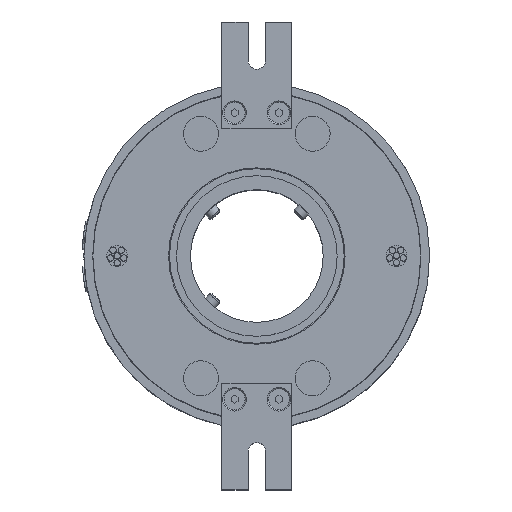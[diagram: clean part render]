
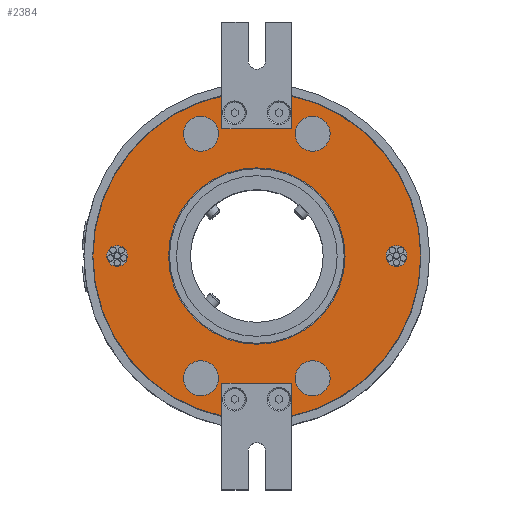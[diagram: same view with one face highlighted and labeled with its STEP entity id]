
A CAD part, top view. The second image highlights one B-rep face of the part: STEP entity #2384.
In plain terms, the highlighted planar face has unit normal (0, 0, 1).
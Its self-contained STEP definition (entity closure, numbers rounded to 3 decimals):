
#173=FACE_BOUND('',#4240,.T.);
#174=FACE_BOUND('',#4241,.T.);
#175=FACE_BOUND('',#4242,.T.);
#176=FACE_BOUND('',#4243,.T.);
#177=FACE_BOUND('',#4244,.T.);
#178=FACE_BOUND('',#4245,.T.);
#179=FACE_BOUND('',#4246,.T.);
#180=FACE_BOUND('',#4247,.T.);
#494=CIRCLE('',#14142,3.);
#495=CIRCLE('',#14144,46.95);
#496=CIRCLE('',#14145,46.95);
#497=CIRCLE('',#14146,25.25);
#498=CIRCLE('',#14147,5.);
#499=CIRCLE('',#14148,5.);
#500=CIRCLE('',#14149,5.);
#501=CIRCLE('',#14150,5.);
#502=CIRCLE('',#14151,3.);
#1057=LINE('',#25564,#1641);
#1058=LINE('',#25569,#1642);
#1059=LINE('',#25571,#1643);
#1060=LINE('',#25573,#1644);
#1061=LINE('',#25577,#1645);
#1062=LINE('',#25579,#1646);
#1641=VECTOR('',#15543,1.);
#1642=VECTOR('',#15546,1.);
#1643=VECTOR('',#15547,1.);
#1644=VECTOR('',#15548,1.);
#1645=VECTOR('',#15551,1.);
#1646=VECTOR('',#15552,1.);
#2384=ADVANCED_FACE('',(#173,#174,#175,#176,#177,#178,#179,#180),#2940,
 .T.);
#2940=PLANE('',#14152);
#4240=EDGE_LOOP('',(#6549,#6550,#6551,#6552,#6553,#6554,#6555,#6556));
#4241=EDGE_LOOP('',(#6557));
#4242=EDGE_LOOP('',(#6558));
#4243=EDGE_LOOP('',(#6559));
#4244=EDGE_LOOP('',(#6560));
#4245=EDGE_LOOP('',(#6561));
#4246=EDGE_LOOP('',(#6562));
#4247=EDGE_LOOP('',(#6563));
#6549=ORIENTED_EDGE('',*,*,#11453,.F.);
#6550=ORIENTED_EDGE('',*,*,#11454,.F.);
#6551=ORIENTED_EDGE('',*,*,#11455,.F.);
#6552=ORIENTED_EDGE('',*,*,#11456,.F.);
#6553=ORIENTED_EDGE('',*,*,#11457,.F.);
#6554=ORIENTED_EDGE('',*,*,#11458,.F.);
#6555=ORIENTED_EDGE('',*,*,#11459,.F.);
#6556=ORIENTED_EDGE('',*,*,#11460,.F.);
#6557=ORIENTED_EDGE('',*,*,#11461,.F.);
#6558=ORIENTED_EDGE('',*,*,#11462,.T.);
#6559=ORIENTED_EDGE('',*,*,#11463,.T.);
#6560=ORIENTED_EDGE('',*,*,#11464,.T.);
#6561=ORIENTED_EDGE('',*,*,#11465,.T.);
#6562=ORIENTED_EDGE('',*,*,#11466,.F.);
#6563=ORIENTED_EDGE('',*,*,#11452,.T.);
#9683=VERTEX_POINT('',#25562);
#9684=VERTEX_POINT('',#25565);
#9685=VERTEX_POINT('',#25566);
#9686=VERTEX_POINT('',#25568);
#9687=VERTEX_POINT('',#25570);
#9688=VERTEX_POINT('',#25572);
#9689=VERTEX_POINT('',#25574);
#9690=VERTEX_POINT('',#25576);
#9691=VERTEX_POINT('',#25578);
#9692=VERTEX_POINT('',#25581);
#9693=VERTEX_POINT('',#25583);
#9694=VERTEX_POINT('',#25585);
#9695=VERTEX_POINT('',#25587);
#9696=VERTEX_POINT('',#25589);
#9697=VERTEX_POINT('',#25591);
#11452=EDGE_CURVE('',#9683,#9683,#494,.T.);
#11453=EDGE_CURVE('',#9684,#9685,#1057,.T.);
#11454=EDGE_CURVE('',#9686,#9684,#495,.T.);
#11455=EDGE_CURVE('',#9687,#9686,#1058,.T.);
#11456=EDGE_CURVE('',#9688,#9687,#1059,.T.);
#11457=EDGE_CURVE('',#9689,#9688,#1060,.T.);
#11458=EDGE_CURVE('',#9690,#9689,#496,.T.);
#11459=EDGE_CURVE('',#9691,#9690,#1061,.T.);
#11460=EDGE_CURVE('',#9685,#9691,#1062,.T.);
#11461=EDGE_CURVE('',#9692,#9692,#497,.T.);
#11462=EDGE_CURVE('',#9693,#9693,#498,.T.);
#11463=EDGE_CURVE('',#9694,#9694,#499,.T.);
#11464=EDGE_CURVE('',#9695,#9695,#500,.T.);
#11465=EDGE_CURVE('',#9696,#9696,#501,.T.);
#11466=EDGE_CURVE('',#9697,#9697,#502,.T.);
#14142=AXIS2_PLACEMENT_3D('',#25561,#15539,#15540);
#14144=AXIS2_PLACEMENT_3D('',#25567,#15544,#15545);
#14145=AXIS2_PLACEMENT_3D('',#25575,#15549,#15550);
#14146=AXIS2_PLACEMENT_3D('',#25580,#15553,#15554);
#14147=AXIS2_PLACEMENT_3D('',#25582,#15555,#15556);
#14148=AXIS2_PLACEMENT_3D('',#25584,#15557,#15558);
#14149=AXIS2_PLACEMENT_3D('',#25586,#15559,#15560);
#14150=AXIS2_PLACEMENT_3D('',#25588,#15561,#15562);
#14151=AXIS2_PLACEMENT_3D('',#25590,#15563,#15564);
#14152=AXIS2_PLACEMENT_3D('',#25592,#15565,#15566);
#15539=DIRECTION('',(0.,0.,-1.));
#15540=DIRECTION('',(-0.866,-0.5,0.));
#15543=DIRECTION('',(0.,-1.,0.));
#15544=DIRECTION('',(0.,0.,-1.));
#15545=DIRECTION('',(1.,0.,0.));
#15546=DIRECTION('',(0.,-1.,0.));
#15547=DIRECTION('',(-1.,0.,0.));
#15548=DIRECTION('',(0.,1.,0.));
#15549=DIRECTION('',(0.,0.,-1.));
#15550=DIRECTION('',(1.,0.,0.));
#15551=DIRECTION('',(0.,1.,0.));
#15552=DIRECTION('',(1.,0.,0.));
#15553=DIRECTION('',(0.,0.,1.));
#15554=DIRECTION('',(1.,0.,0.));
#15555=DIRECTION('',(0.,0.,-1.));
#15556=DIRECTION('',(1.,0.,0.));
#15557=DIRECTION('',(0.,0.,-1.));
#15558=DIRECTION('',(-1.,0.,0.));
#15559=DIRECTION('',(0.,0.,-1.));
#15560=DIRECTION('',(1.,0.,0.));
#15561=DIRECTION('',(0.,0.,-1.));
#15562=DIRECTION('',(-1.,0.,0.));
#15563=DIRECTION('',(0.,0.,1.));
#15564=DIRECTION('',(0.866,-0.5,0.));
#15565=DIRECTION('',(0.,0.,1.));
#15566=DIRECTION('',(1.,0.,0.));
#25561=CARTESIAN_POINT('',(-40.,0.,80.5));
#25562=CARTESIAN_POINT('',(-42.598,-1.5,80.5));
#25564=CARTESIAN_POINT('',(-10.,51.75,80.5));
#25565=CARTESIAN_POINT('',(-10.,45.873,80.5));
#25566=CARTESIAN_POINT('',(-10.,36.5,80.5));
#25567=CARTESIAN_POINT('',(0.,0.,80.5));
#25568=CARTESIAN_POINT('',(-10.,-45.873,80.5));
#25569=CARTESIAN_POINT('',(-10.,-51.75,80.5));
#25570=CARTESIAN_POINT('',(-10.,-36.5,80.5));
#25571=CARTESIAN_POINT('',(0.,-36.5,80.5));
#25572=CARTESIAN_POINT('',(10.,-36.5,80.5));
#25573=CARTESIAN_POINT('',(10.,-51.75,80.5));
#25574=CARTESIAN_POINT('',(10.,-45.873,80.5));
#25575=CARTESIAN_POINT('',(0.,0.,80.5));
#25576=CARTESIAN_POINT('',(10.,45.873,80.5));
#25577=CARTESIAN_POINT('',(10.,51.75,80.5));
#25578=CARTESIAN_POINT('',(10.,36.5,80.5));
#25579=CARTESIAN_POINT('',(0.,36.5,80.5));
#25580=CARTESIAN_POINT('',(0.,0.,80.5));
#25581=CARTESIAN_POINT('',(25.25,0.,80.5));
#25582=CARTESIAN_POINT('',(16.,35.,80.5));
#25583=CARTESIAN_POINT('',(21.,35.,80.5));
#25584=CARTESIAN_POINT('',(-16.,-35.,80.5));
#25585=CARTESIAN_POINT('',(-21.,-35.,80.5));
#25586=CARTESIAN_POINT('',(-16.,35.,80.5));
#25587=CARTESIAN_POINT('',(-11.,35.,80.5));
#25588=CARTESIAN_POINT('',(16.,-35.,80.5));
#25589=CARTESIAN_POINT('',(11.,-35.,80.5));
#25590=CARTESIAN_POINT('',(40.,0.,80.5));
#25591=CARTESIAN_POINT('',(42.598,-1.5,80.5));
#25592=CARTESIAN_POINT('',(0.,0.,80.5));
